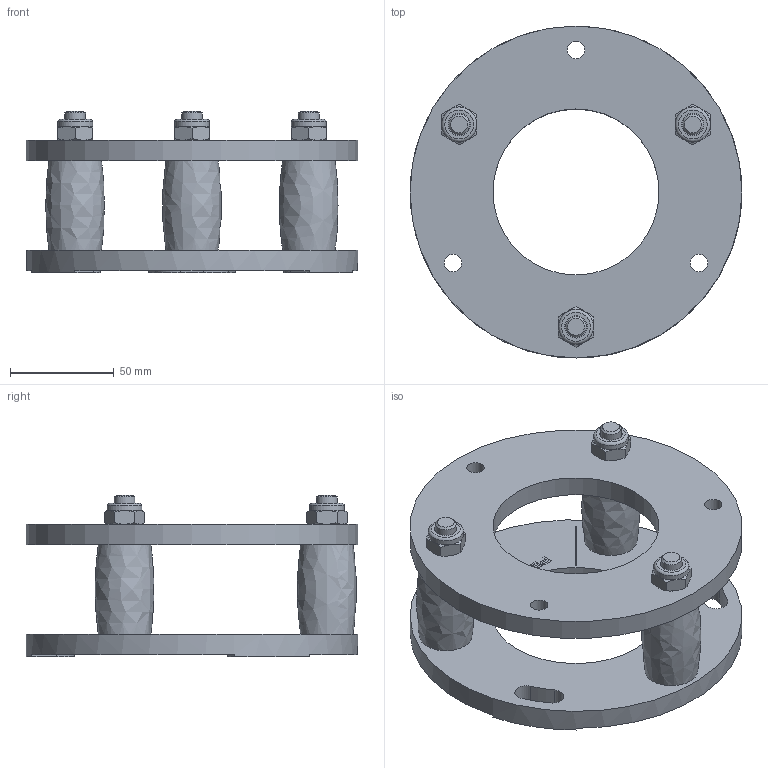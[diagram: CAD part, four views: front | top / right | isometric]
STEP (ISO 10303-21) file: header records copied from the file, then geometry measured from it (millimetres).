
FILE_DESCRIPTION(/* description */ (''),/* implementation_level */ '2;1');
FILE_NAME(/* name */ 'D:\_Vault\Workspace\Projektordner\Sensoren\PSENoptII Zubehör\Kundendaten/H305523_A_adjustable base unit_PSENopII.stp',/* time_stamp */ '2018-04-05T12:41:00+02:00',/* author */ ('damb'),/* organization */ (''),/* preprocessor_version */ 'ST-DEVELOPER v16.5',/* originating_system */ 'Autodesk Inventor 2017',/* authorisation */ '');
FILE_SCHEMA (('AUTOMOTIVE_DESIGN { 1 0 10303 214 3 1 1 }'));
Length unit declared in the file: millimetre
Products named in the file (1): H305523
Bounding box: 160 x 160 x 78 mm (x, y, z)
Volume: 378647.9 mm3; surface area: 87083.4 mm2
Topology: 1 solids, 1 shells, 170 faces, 416 edges, 269 vertices
Faces by surface type: plane 86, cone 39, cylinder 39, torus 3, bspline 3
Full cylindrical faces by diameter (mm): 8.376 x3, 10 x3, 10.8 x3, 16.8 x3, 80 x2, 160 x2
Entity records: 4853 total; most frequent: CARTESIAN_POINT 1038, DIRECTION 780, ORIENTED_EDGE 764, EDGE_CURVE 382, AXIS2_PLACEMENT_3D 305, VERTEX_POINT 257, EDGE_LOOP 233, LINE 170
